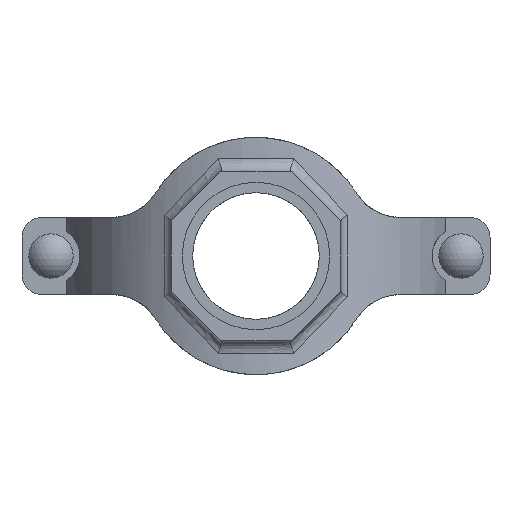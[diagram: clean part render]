
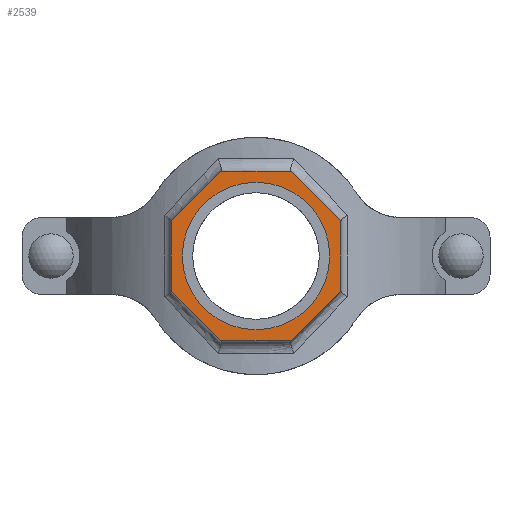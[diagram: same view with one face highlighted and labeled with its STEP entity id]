
A CAD part, front view. The second image highlights one B-rep face of the part: STEP entity #2539.
In plain terms, the highlighted planar face has unit normal (0, -1, 0) as drawn and (0, 1, 0) by its records, which use the part's own axes.
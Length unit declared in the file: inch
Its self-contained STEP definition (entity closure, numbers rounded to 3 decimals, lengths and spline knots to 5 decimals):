
#186=FACE_BOUND('',#459,.T.);
#307=FACE_OUTER_BOUND('',#458,.T.);
#458=EDGE_LOOP('',(#2138,#2139,#2140,#2141,#2142,#2143,#2144,#2145));
#459=EDGE_LOOP('',(#2146));
#594=LINE('',#4705,#780);
#597=LINE('',#4710,#783);
#599=LINE('',#4714,#785);
#601=LINE('',#4718,#787);
#641=LINE('',#5223,#827);
#643=LINE('',#5227,#829);
#645=LINE('',#5231,#831);
#647=LINE('',#5234,#833);
#780=VECTOR('',#3278,0.3937);
#783=VECTOR('',#3283,0.3937);
#785=VECTOR('',#3287,0.3937);
#787=VECTOR('',#3291,0.3937);
#827=VECTOR('',#3427,0.3937);
#829=VECTOR('',#3431,0.3937);
#831=VECTOR('',#3435,0.3937);
#833=VECTOR('',#3439,0.3937);
#919=CIRCLE('',#2802,1.4375);
#1097=VERTEX_POINT('',#4702);
#1098=VERTEX_POINT('',#4704);
#1099=VERTEX_POINT('',#4708);
#1100=VERTEX_POINT('',#4712);
#1101=VERTEX_POINT('',#4716);
#1136=VERTEX_POINT('',#5044);
#1160=VERTEX_POINT('',#5222);
#1161=VERTEX_POINT('',#5226);
#1162=VERTEX_POINT('',#5230);
#1408=EDGE_CURVE('',#1098,#1097,#594,.T.);
#1411=EDGE_CURVE('',#1097,#1099,#597,.T.);
#1413=EDGE_CURVE('',#1099,#1100,#599,.T.);
#1415=EDGE_CURVE('',#1100,#1101,#601,.T.);
#1461=EDGE_CURVE('',#1136,#1136,#919,.T.);
#1495=EDGE_CURVE('',#1160,#1098,#641,.T.);
#1497=EDGE_CURVE('',#1161,#1160,#643,.T.);
#1499=EDGE_CURVE('',#1162,#1161,#645,.T.);
#1501=EDGE_CURVE('',#1101,#1162,#647,.T.);
#2138=ORIENTED_EDGE('',*,*,#1501,.T.);
#2139=ORIENTED_EDGE('',*,*,#1499,.T.);
#2140=ORIENTED_EDGE('',*,*,#1497,.T.);
#2141=ORIENTED_EDGE('',*,*,#1495,.T.);
#2142=ORIENTED_EDGE('',*,*,#1408,.T.);
#2143=ORIENTED_EDGE('',*,*,#1411,.T.);
#2144=ORIENTED_EDGE('',*,*,#1413,.T.);
#2145=ORIENTED_EDGE('',*,*,#1415,.T.);
#2146=ORIENTED_EDGE('',*,*,#1461,.T.);
#2280=PLANE('',#2825);
#2539=ADVANCED_FACE('',(#307,#186),#2280,.T.);
#2802=AXIS2_PLACEMENT_3D('',#5045,#3369,#3370);
#2825=AXIS2_PLACEMENT_3D('',#5235,#3440,#3441);
#3278=DIRECTION('',(0.,0.,1.));
#3283=DIRECTION('',(0.707,0.,0.707));
#3287=DIRECTION('',(1.,0.,0.));
#3291=DIRECTION('',(0.707,0.,-0.707));
#3369=DIRECTION('center_axis',(0.,-1.,0.));
#3370=DIRECTION('ref_axis',(-1.,0.,0.));
#3427=DIRECTION('',(-0.707,0.,0.707));
#3431=DIRECTION('',(-1.,0.,0.));
#3435=DIRECTION('',(-0.707,0.,-0.707));
#3439=DIRECTION('',(0.,0.,-1.));
#3440=DIRECTION('center_axis',(0.,1.,0.));
#3441=DIRECTION('ref_axis',(0.,0.,1.));
#4702=CARTESIAN_POINT('',(-1.655,5.13,0.68552));
#4704=CARTESIAN_POINT('',(-1.655,5.13,-0.68552));
#4705=CARTESIAN_POINT('',(-1.655,5.13,0.68552));
#4708=CARTESIAN_POINT('',(-0.68552,5.13,1.655));
#4710=CARTESIAN_POINT('',(-0.68552,5.13,1.655));
#4712=CARTESIAN_POINT('',(0.68552,5.13,1.655));
#4714=CARTESIAN_POINT('',(0.68552,5.13,1.655));
#4716=CARTESIAN_POINT('',(1.655,5.13,0.68552));
#4718=CARTESIAN_POINT('',(1.655,5.13,0.68552));
#5044=CARTESIAN_POINT('',(1.4375,5.13,0.));
#5045=CARTESIAN_POINT('Origin',(0.,5.13,0.));
#5222=CARTESIAN_POINT('',(-0.68552,5.13,-1.655));
#5223=CARTESIAN_POINT('',(-1.655,5.13,-0.68552));
#5226=CARTESIAN_POINT('',(0.68552,5.13,-1.655));
#5227=CARTESIAN_POINT('',(-0.68552,5.13,-1.655));
#5230=CARTESIAN_POINT('',(1.655,5.13,-0.68552));
#5231=CARTESIAN_POINT('',(0.68552,5.13,-1.655));
#5234=CARTESIAN_POINT('',(1.655,5.13,-0.68552));
#5235=CARTESIAN_POINT('Origin',(0.,5.13,0.));
